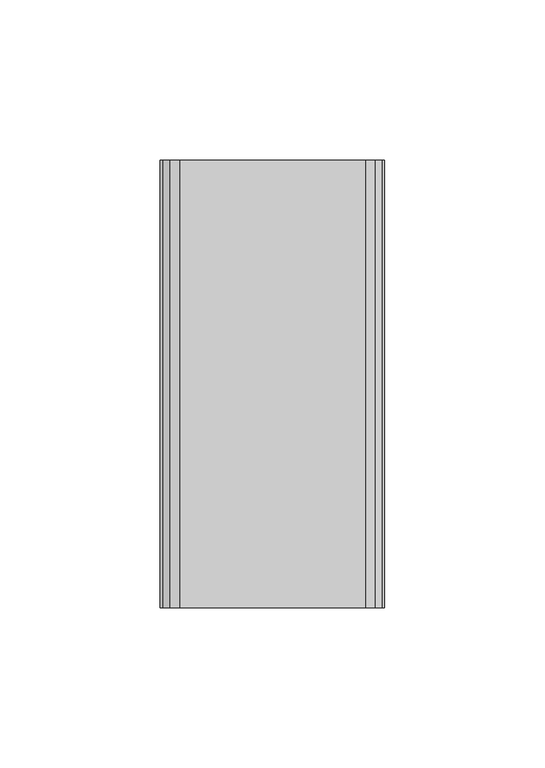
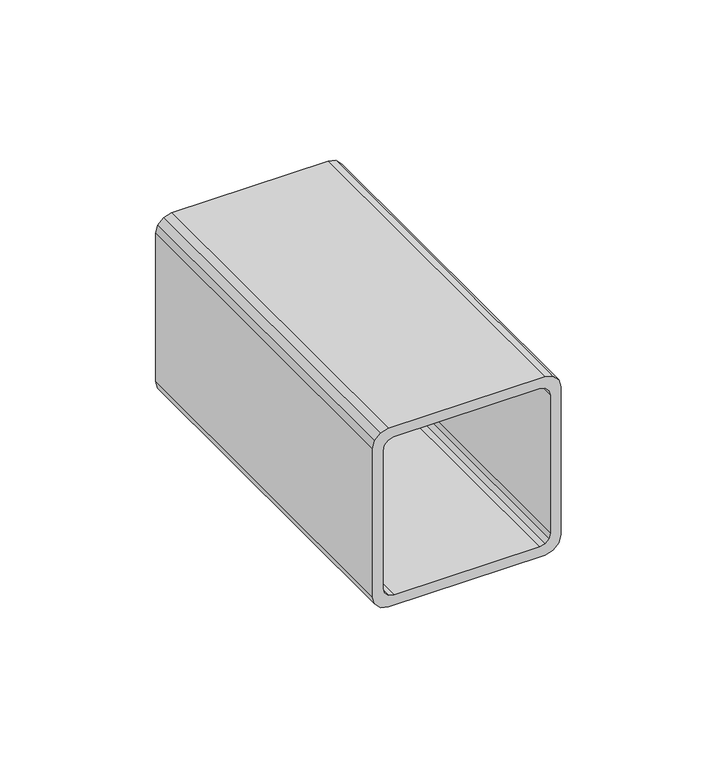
"""IFC4 building model written with IfcOpenShell, lengths in millimetres: beam geometry,  211324 :  211324."""

from ifc_helpers import new_model, si_unit, frame, origin, place, context, project, spatial, polyline, outline, extrude, source, transform, mapped, element, save


def beam_d07b3a57(model_context):
    return source(origin(), model_context, "Body", "SweptSolid", [
        extrude(outline(polyline([(4590.9478709, 22.8791579), (4587.9478709, 23.6830055), (4585.7517184, 25.8791579), (4584.9478709, 28.8791579), (4584.9478709, 86.8791579), (4585.7517184, 89.8791579), (4587.9478709, 92.0753103), (4590.9478709, 92.8791579), (4648.9478709, 92.8791579), (4651.9478709, 92.0753103), (4654.1440233, 89.8791579), (4654.9478709, 86.8791579), (4654.9478709, 28.8791579), (4654.1440233, 25.8791579), (4651.9478709, 23.6830055), (4648.9478709, 22.8791579), (4590.9478709, 22.8791579)]), holes=[polyline([(4646.9478709, 26.8791579), (4648.9478709, 27.4150563), (4650.4119725, 28.8791579), (4650.9478709, 30.8791579), (4650.9478709, 84.8791579), (4650.4119725, 86.8791579), (4648.9478709, 88.3432595), (4646.9478709, 88.8791579), (4592.9478709, 88.8791579), (4590.9478709, 88.3432595), (4589.4837692, 86.8791579), (4588.9478709, 84.8791579), (4588.9478709, 30.8791579), (4589.4837692, 28.8791579), (4590.9478709, 27.4150563), (4592.9478709, 26.8791579), (4646.9478709, 26.8791579)])]), frame((0.0, -114.45, 0.0), z_axis=(0.0, 1.0, 0.0), x_axis=(0.0, 0.0, 1.0)), (0.0, 0.0, 1.0), 139.45),
    ])


if __name__ == "__main__":
    model = new_model("IFC4")
    model_context = context("Model", 3, world=origin())
    ifc_project = project(units=[si_unit("LENGTHUNIT", "METRE", prefix="MILLI")], contexts=[model_context])
    site = spatial("IfcSite", under=ifc_project)
    building = spatial("IfcBuilding", under=site)
    placement = place(None, origin())
    beam_shape = beam_d07b3a57(model_context)
    element("IfcBeam", 1, ObjectType=" 211324 :  211324", at=placement, inside=building, context=model_context, shape_type="MappedRepresentation", body=[
        mapped(beam_shape, transform((0.0, 0.0, 0.0), x_axis=(1.0, 0.0, 0.0), y_axis=(0.0, 1.0, 0.0), z_axis=(0.0, 0.0, 1.0))),
    ])
    save(model, "model.ifc")
